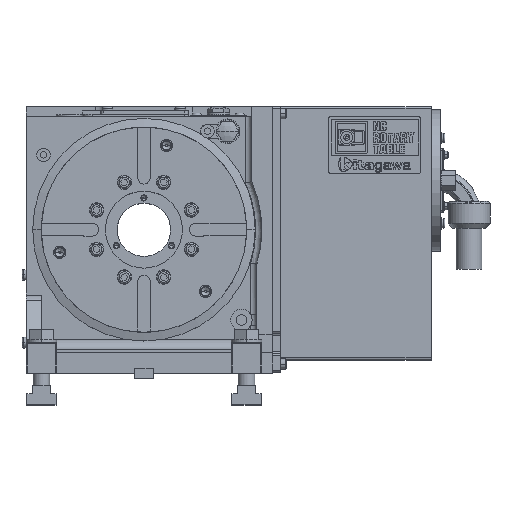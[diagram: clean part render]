
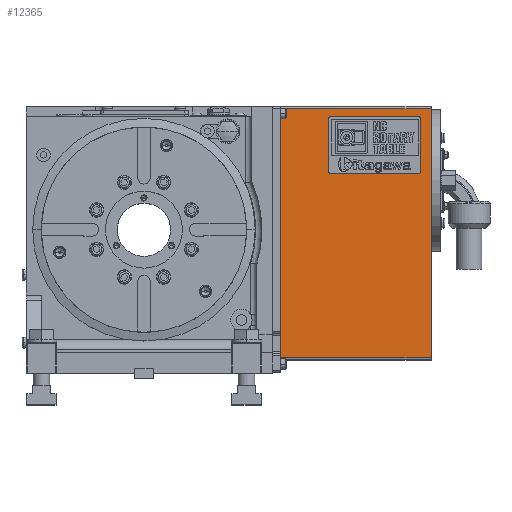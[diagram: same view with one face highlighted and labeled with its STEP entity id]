
A CAD part, top view. The second image highlights one B-rep face of the part: STEP entity #12365.
In plain terms, the highlighted planar face has unit normal (0, 0, 1).
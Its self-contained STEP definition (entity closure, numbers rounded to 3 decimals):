
#6867 = DIRECTION ( 'NONE',  ( -1., 0., 0. ) ) ;
#12365 = ADVANCED_FACE ( 'NONE', ( #76887 ), #55697, .F. ) ;
#14588 = EDGE_LOOP ( 'NONE', ( #89678, #76675, #67885, #65491 ) ) ;
#19355 = LINE ( 'NONE', #60902, #38504 ) ;
#21265 = EDGE_CURVE ( 'NONE', #63043, #49672, #66279, .T. ) ;
#24588 = VERTEX_POINT ( 'NONE', #72266 ) ;
#29835 = AXIS2_PLACEMENT_3D ( 'NONE', #80275, #31421, #88475 ) ;
#29872 = CARTESIAN_POINT ( 'NONE',  ( 155., 257., -15. ) ) ;
#31421 = DIRECTION ( 'NONE',  ( 0., 0., -1. ) ) ;
#31922 = DIRECTION ( 'NONE',  ( 0., -1., 0. ) ) ;
#32285 = CARTESIAN_POINT ( 'NONE',  ( 8., 259., -15. ) ) ;
#34766 = CARTESIAN_POINT ( 'NONE',  ( 155., 259., -15. ) ) ;
#35698 = VECTOR ( 'NONE', #6867, 1000. ) ;
#36509 = VECTOR ( 'NONE', #31922, 1000. ) ;
#38504 = VECTOR ( 'NONE', #69167, 1000. ) ;
#44542 = VECTOR ( 'NONE', #91413, 1000. ) ;
#49166 = CARTESIAN_POINT ( 'NONE',  ( 8., 14., -15. ) ) ;
#49672 = VERTEX_POINT ( 'NONE', #95663 ) ;
#50692 = EDGE_CURVE ( 'NONE', #83247, #49672, #19355, .T. ) ;
#55697 = PLANE ( 'NONE',  #29835 ) ;
#58157 = LINE ( 'NONE', #32285, #36509 ) ;
#60902 = CARTESIAN_POINT ( 'NONE',  ( 155., 14., -15. ) ) ;
#63043 = VERTEX_POINT ( 'NONE', #29872 ) ;
#65491 = ORIENTED_EDGE ( 'NONE', *, *, #85996, .T. ) ;
#66279 = LINE ( 'NONE', #34766, #44542 ) ;
#67885 = ORIENTED_EDGE ( 'NONE', *, *, #21265, .F. ) ;
#69167 = DIRECTION ( 'NONE',  ( 1., 0., 0. ) ) ;
#72266 = CARTESIAN_POINT ( 'NONE',  ( 8., 257., -15. ) ) ;
#76675 = ORIENTED_EDGE ( 'NONE', *, *, #50692, .T. ) ;
#76887 = FACE_OUTER_BOUND ( 'NONE', #14588, .T. ) ;
#80275 = CARTESIAN_POINT ( 'NONE',  ( 155., 259., -15. ) ) ;
#82066 = EDGE_CURVE ( 'NONE', #24588, #83247, #58157, .T. ) ;
#83247 = VERTEX_POINT ( 'NONE', #49166 ) ;
#85996 = EDGE_CURVE ( 'NONE', #63043, #24588, #100706, .T. ) ;
#88475 = DIRECTION ( 'NONE',  ( 0., 1., 0. ) ) ;
#89678 = ORIENTED_EDGE ( 'NONE', *, *, #82066, .T. ) ;
#91413 = DIRECTION ( 'NONE',  ( 0., -1., 0. ) ) ;
#95663 = CARTESIAN_POINT ( 'NONE',  ( 155., 14., -15. ) ) ;
#100706 = LINE ( 'NONE', #104544, #35698 ) ;
#104544 = CARTESIAN_POINT ( 'NONE',  ( 155., 257., -15. ) ) ;
